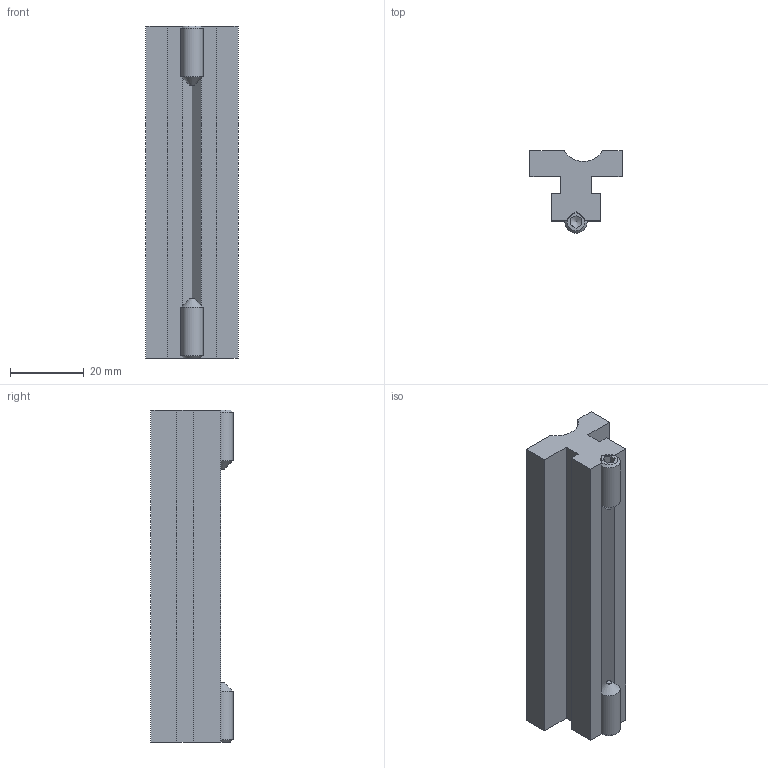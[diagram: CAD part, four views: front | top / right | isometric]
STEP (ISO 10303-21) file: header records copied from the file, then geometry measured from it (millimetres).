
FILE_DESCRIPTION((''),'2;1');
FILE_NAME('C:\Documents and Settings\Administrator\My Documents\Andys Backup Data\ANDY''S INVENTOR\INVENTOR LIBRARIES\MINITEC INVENTOR LIBRARIES\COMPONENTS LG\22.1094 SLIDE RAIL LG.stp','2009-02-26T09:53:53',('Administrator'),(''),'Autodesk Inventor 2009','Autodesk Inventor 2009','');
FILE_SCHEMA(('AUTOMOTIVE_DESIGN { 1 0 10303 214 1 1 1 1 }'));
Length unit declared in the file: millimetre
Products named in the file (3): 22.1094 SLIDE RAIL LG; SET SCREW M6X16 POINTED END DIN 914
Assembly tree (3 placements, depth 2):
  22.1094 SLIDE RAIL LG
    22.1094 SLIDE RAIL LG
    SET SCREW M6X16 POINTED END DIN 914  x2
Bounding box: 25 x 22.3 x 90 mm (x, y, z)
Volume: 26349.3 mm3; surface area: 10540.5 mm2
Topology: 3 solids, 3 shells, 43 faces, 105 edges, 68 vertices
Faces by surface type: plane 34, cone 6, cylinder 3
Full cylindrical faces by diameter (mm): 6 x2
Entity records: 976 total; most frequent: CARTESIAN_POINT 172, DIRECTION 147, ORIENTED_EDGE 146, EDGE_CURVE 73, VECTOR 61, LINE 61, VERTEX_POINT 50, AXIS2_PLACEMENT_3D 43
